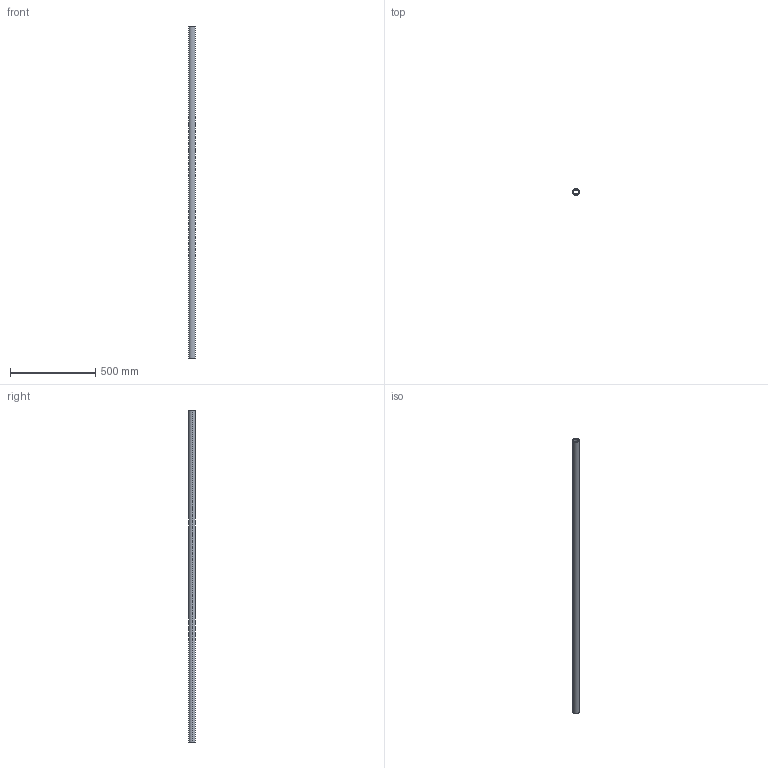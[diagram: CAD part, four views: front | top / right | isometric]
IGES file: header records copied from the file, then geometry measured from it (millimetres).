
Start section: SolidWorks IGES file using analytic representation for surfaces
Global section: file name: C:\Users\IanO\Desktop\L1771_v2\L1771.40_v2\L1771.40_v2_20230705_IGES\L1771.40-1950.igs; native system: SolidWorks 2019; preprocessor: SolidWorks 2019; author: IanO; date: 230705.160933; units: millimetre
Bounding box: 40 x 40 x 1950 mm (x, y, z)
Surface area: 417857 mm2 (no closed solid volume)
Topology: 0 solids, 0 shells, 6 faces, 272 edges, 272 vertices
Faces by surface type: revolution 4, bspline 2
